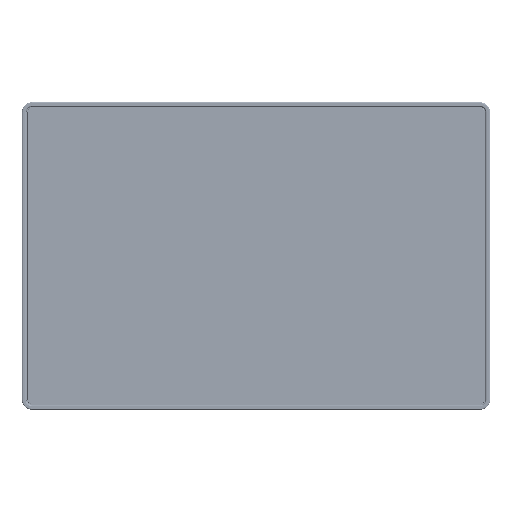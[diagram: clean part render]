
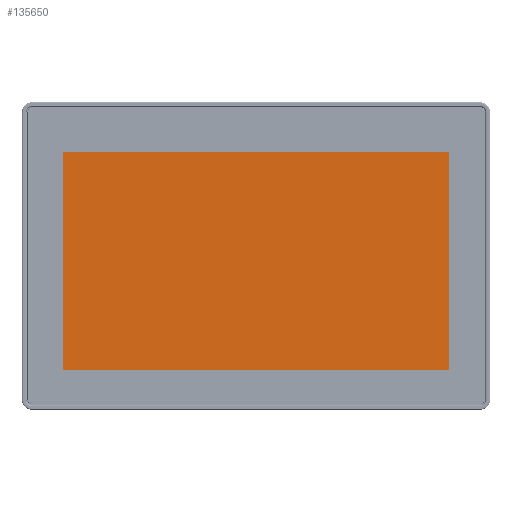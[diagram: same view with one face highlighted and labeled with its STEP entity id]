
A CAD part, top view. The second image highlights one B-rep face of the part: STEP entity #135650.
In plain terms, the highlighted planar face has unit normal (0, 0, 1).
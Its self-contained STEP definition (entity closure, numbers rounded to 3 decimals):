
#11394=PLANE('',#149156);
#19507=FACE_OUTER_BOUND('',#27963,.T.);
#27963=EDGE_LOOP('',(#124778,#124779,#124780,#124781));
#37165=LINE('',#366957,#46372);
#37169=LINE('',#366964,#46376);
#37172=LINE('',#366970,#46379);
#37174=LINE('',#366973,#46381);
#46372=VECTOR('',#184965,10.);
#46376=VECTOR('',#184971,10.);
#46379=VECTOR('',#184976,10.);
#46381=VECTOR('',#184980,10.);
#64186=VERTEX_POINT('',#366954);
#64187=VERTEX_POINT('',#366956);
#64189=VERTEX_POINT('',#366962);
#64191=VERTEX_POINT('',#366968);
#84383=EDGE_CURVE('',#64186,#64187,#37165,.T.);
#84387=EDGE_CURVE('',#64189,#64186,#37169,.T.);
#84390=EDGE_CURVE('',#64191,#64189,#37172,.T.);
#84392=EDGE_CURVE('',#64187,#64191,#37174,.T.);
#124778=ORIENTED_EDGE('',*,*,#84392,.F.);
#124779=ORIENTED_EDGE('',*,*,#84383,.F.);
#124780=ORIENTED_EDGE('',*,*,#84387,.F.);
#124781=ORIENTED_EDGE('',*,*,#84390,.F.);
#135650=ADVANCED_FACE('',(#19507),#11394,.F.);
#149156=AXIS2_PLACEMENT_3D('',#366974,#184981,#184982);
#184965=DIRECTION('',(0.,-1.,0.));
#184971=DIRECTION('',(1.,0.,0.));
#184976=DIRECTION('',(0.,1.,0.));
#184980=DIRECTION('',(-1.,0.,0.));
#184981=DIRECTION('center_axis',(0.,0.,-1.));
#184982=DIRECTION('ref_axis',(-1.,0.,0.));
#366954=CARTESIAN_POINT('',(88.82,50.16,1.99));
#366956=CARTESIAN_POINT('',(88.82,-50.2,1.99));
#366957=CARTESIAN_POINT('',(88.82,-50.2,1.99));
#366962=CARTESIAN_POINT('',(-88.82,50.16,1.99));
#366964=CARTESIAN_POINT('',(88.82,50.16,1.99));
#366968=CARTESIAN_POINT('',(-88.82,-50.2,1.99));
#366970=CARTESIAN_POINT('',(-88.82,50.16,1.99));
#366973=CARTESIAN_POINT('',(-88.82,-50.2,1.99));
#366974=CARTESIAN_POINT('Origin',(0.,-0.02,
1.99));
